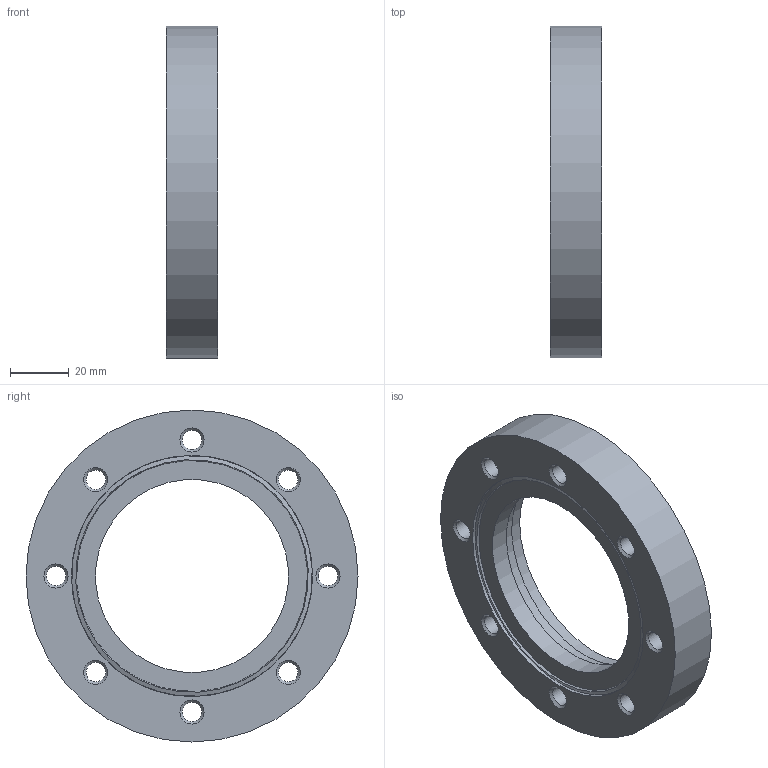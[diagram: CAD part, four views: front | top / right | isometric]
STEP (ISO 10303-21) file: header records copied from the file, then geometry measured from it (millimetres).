
FILE_DESCRIPTION( ( 'Unknown' ), '1' );
FILE_NAME( 'X:/Daten ( aktueller Bestand )/Projekte und Zeichnungen/Solid Edge/STP-Dateien/CF-Teile/7513RG4.stp', 'Unknown', ( 'Unknown' ), ( 'Unknown' ), 'PSStep 14.0', 'Unknown', ' ' );
FILE_SCHEMA( ( 'AUTOMOTIVE_DESIGN { 1 0 10303 214 1 1 1 1 }' ) );
Length unit declared in the file: millimetre
Products named in the file (3): Assem1; 7423R-1; 7513R-2
Assembly tree (2 placements, depth 2):
  Assem1
    7423R-1
    7513R-2
Bounding box: 17.5 x 113.5 x 113.5 mm (x, y, z)
Volume: 104416.4 mm3; surface area: 34395.9 mm2
Topology: 2 solids, 2 shells, 38 faces, 86 edges, 54 vertices
Faces by surface type: cone 18, cylinder 14, plane 6
Full cylindrical faces by diameter (mm): 6.647 x8, 66 x1, 70.3 x1, 72 x1, 82.3 x1, 82.5 x1, 113.5 x1
Entity records: 1242 total; most frequent: DIRECTION 174, CARTESIAN_POINT 133, EDGE_LOOP 92, ORIENTED_EDGE 92, AXIS2_PLACEMENT_3D 87, FACE_OUTER_BOUND 52, EDGE_CURVE 46, VERTEX_POINT 46
